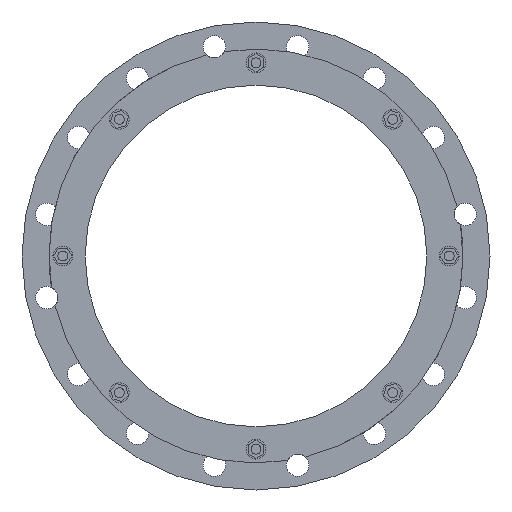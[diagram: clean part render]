
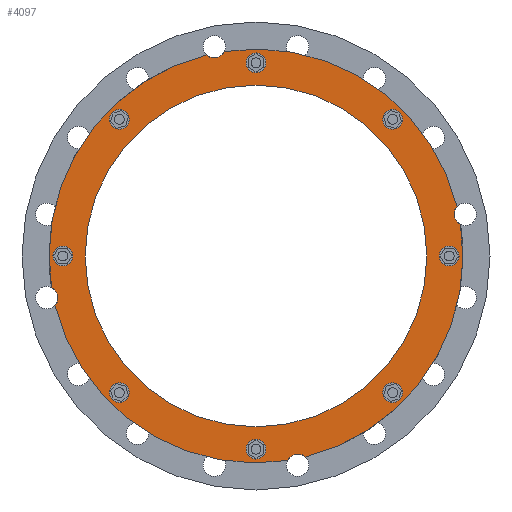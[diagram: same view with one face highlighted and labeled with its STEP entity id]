
A CAD part, front view. The second image highlights one B-rep face of the part: STEP entity #4097.
In plain terms, the highlighted planar face has unit normal (0, -1, 0).
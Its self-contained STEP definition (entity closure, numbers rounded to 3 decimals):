
#873=CARTESIAN_POINT('',(0.,-99.452,0.));
#874=DIRECTION('',(0.,-1.,0.));
#875=DIRECTION('',(0.971,0.,0.238));
#876=AXIS2_PLACEMENT_3D('',#873,#874,#875);
#896=CARTESIAN_POINT('',(0.,-99.452,0.));
#897=DIRECTION('',(0.,-1.,0.));
#898=DIRECTION('',(-0.238,0.,0.971));
#899=AXIS2_PLACEMENT_3D('',#896,#897,#898);
#905=CARTESIAN_POINT('',(0.,-99.452,0.));
#906=DIRECTION('',(0.,-1.,0.));
#907=DIRECTION('',(0.238,0.,-0.971));
#908=AXIS2_PLACEMENT_3D('',#905,#906,#907);
#937=CARTESIAN_POINT('',(0.,-99.452,0.));
#938=DIRECTION('',(0.,-1.,0.));
#939=DIRECTION('',(-0.971,0.,-0.238));
#940=AXIS2_PLACEMENT_3D('',#937,#938,#939);
#1442=CARTESIAN_POINT('',(233.25,-99.452,0.));
#1443=DIRECTION('',(0.,-1.,0.));
#1444=DIRECTION('',(0.,0.,-1.));
#1445=AXIS2_PLACEMENT_3D('',#1442,#1443,#1444);
#1447=CARTESIAN_POINT('',(233.25,-99.452,0.));
#1448=DIRECTION('',(0.,-1.,0.));
#1449=DIRECTION('',(0.,0.,1.));
#1450=AXIS2_PLACEMENT_3D('',#1447,#1448,#1449);
#1452=CARTESIAN_POINT('',(164.933,-99.452,164.933));
#1453=DIRECTION('',(0.,-1.,0.));
#1454=DIRECTION('',(0.707,0.,-0.707));
#1455=AXIS2_PLACEMENT_3D('',#1452,#1453,#1454);
#1457=CARTESIAN_POINT('',(164.933,-99.452,164.933));
#1458=DIRECTION('',(0.,-1.,0.));
#1459=DIRECTION('',(-0.707,0.,0.707));
#1460=AXIS2_PLACEMENT_3D('',#1457,#1458,#1459);
#1462=CARTESIAN_POINT('',(0.,-99.452,233.25));
#1463=DIRECTION('',(0.,-1.,0.));
#1464=DIRECTION('',(1.,0.,0.));
#1465=AXIS2_PLACEMENT_3D('',#1462,#1463,#1464);
#1467=CARTESIAN_POINT('',(0.,-99.452,233.25));
#1468=DIRECTION('',(0.,-1.,0.));
#1469=DIRECTION('',(-1.,0.,0.));
#1470=AXIS2_PLACEMENT_3D('',#1467,#1468,#1469);
#1472=CARTESIAN_POINT('',(-164.933,-99.452,164.933));
#1473=DIRECTION('',(0.,-1.,0.));
#1474=DIRECTION('',(0.707,0.,0.707));
#1475=AXIS2_PLACEMENT_3D('',#1472,#1473,#1474);
#1477=CARTESIAN_POINT('',(-164.933,-99.452,164.933));
#1478=DIRECTION('',(0.,-1.,0.));
#1479=DIRECTION('',(-0.707,0.,-0.707));
#1480=AXIS2_PLACEMENT_3D('',#1477,#1478,#1479);
#1482=CARTESIAN_POINT('',(-233.25,-99.452,0.));
#1483=DIRECTION('',(0.,-1.,0.));
#1484=DIRECTION('',(0.,0.,1.));
#1485=AXIS2_PLACEMENT_3D('',#1482,#1483,#1484);
#1487=CARTESIAN_POINT('',(-233.25,-99.452,0.));
#1488=DIRECTION('',(0.,-1.,0.));
#1489=DIRECTION('',(0.,0.,-1.));
#1490=AXIS2_PLACEMENT_3D('',#1487,#1488,#1489);
#1492=CARTESIAN_POINT('',(-164.933,-99.452,-164.933));
#1493=DIRECTION('',(0.,-1.,0.));
#1494=DIRECTION('',(-0.707,0.,0.707));
#1495=AXIS2_PLACEMENT_3D('',#1492,#1493,#1494);
#1497=CARTESIAN_POINT('',(-164.933,-99.452,-164.933));
#1498=DIRECTION('',(0.,-1.,0.));
#1499=DIRECTION('',(0.707,0.,-0.707));
#1500=AXIS2_PLACEMENT_3D('',#1497,#1498,#1499);
#1502=CARTESIAN_POINT('',(0.,-99.452,-233.25));
#1503=DIRECTION('',(0.,-1.,0.));
#1504=DIRECTION('',(-1.,0.,0.));
#1505=AXIS2_PLACEMENT_3D('',#1502,#1503,#1504);
#1507=CARTESIAN_POINT('',(0.,-99.452,-233.25));
#1508=DIRECTION('',(0.,-1.,0.));
#1509=DIRECTION('',(1.,0.,0.));
#1510=AXIS2_PLACEMENT_3D('',#1507,#1508,#1509);
#1512=CARTESIAN_POINT('',(164.933,-99.452,-164.933));
#1513=DIRECTION('',(0.,-1.,0.));
#1514=DIRECTION('',(-0.707,0.,-0.707));
#1515=AXIS2_PLACEMENT_3D('',#1512,#1513,#1514);
#1517=CARTESIAN_POINT('',(164.933,-99.452,-164.933));
#1518=DIRECTION('',(0.,-1.,0.));
#1519=DIRECTION('',(0.707,0.,0.707));
#1520=AXIS2_PLACEMENT_3D('',#1517,#1518,#1519);
#1522=CARTESIAN_POINT('',(50.236,-99.452,-252.552));
#1523=DIRECTION('',(0.,-1.,0.));
#1524=DIRECTION('',(0.682,0.,0.732));
#1525=AXIS2_PLACEMENT_3D('',#1522,#1523,#1524);
#1527=CARTESIAN_POINT('',(-252.552,-99.452,-50.236));
#1528=DIRECTION('',(0.,-1.,0.));
#1529=DIRECTION('',(0.732,0.,-0.682));
#1530=AXIS2_PLACEMENT_3D('',#1527,#1528,#1529);
#1532=CARTESIAN_POINT('',(-50.236,-99.452,252.552));
#1533=DIRECTION('',(0.,-1.,0.));
#1534=DIRECTION('',(-0.682,0.,-0.732));
#1535=AXIS2_PLACEMENT_3D('',#1532,#1533,#1534);
#1537=CARTESIAN_POINT('',(252.552,-99.452,50.236));
#1538=DIRECTION('',(0.,-1.,0.));
#1539=DIRECTION('',(-0.732,0.,0.682));
#1540=AXIS2_PLACEMENT_3D('',#1537,#1538,#1539);
#1542=CARTESIAN_POINT('',(0.,-99.452,0.));
#1543=DIRECTION('',(0.,1.,0.));
#1544=DIRECTION('',(1.,0.,0.));
#1545=AXIS2_PLACEMENT_3D('',#1542,#1543,#1544);
#1555=CARTESIAN_POINT('',(0.,-99.452,0.));
#1556=DIRECTION('',(0.,-1.,0.));
#1557=DIRECTION('',(1.,0.,0.));
#1558=AXIS2_PLACEMENT_3D('',#1555,#1556,#1557);
#2556=CARTESIAN_POINT('',(206.25,-99.452,0.));
#2558=VERTEX_POINT('',#2556);
#2564=CARTESIAN_POINT('',(-206.25,-99.452,0.));
#2566=VERTEX_POINT('',#2564);
#2605=CARTESIAN_POINT('',(233.25,-99.452,-12.));
#2606=CARTESIAN_POINT('',(233.25,-99.452,12.));
#2607=VERTEX_POINT('',#2605);
#2608=VERTEX_POINT('',#2606);
#2654=CARTESIAN_POINT('',(173.418,-99.452,156.447));
#2655=VERTEX_POINT('',#2654);
#2656=CARTESIAN_POINT('',(156.447,-99.452,173.418));
#2657=VERTEX_POINT('',#2656);
#2698=CARTESIAN_POINT('',(12.,-99.452,233.25));
#2699=VERTEX_POINT('',#2698);
#2700=CARTESIAN_POINT('',(-12.,-99.452,233.25));
#2701=VERTEX_POINT('',#2700);
#2742=CARTESIAN_POINT('',(-156.447,-99.452,173.418));
#2743=VERTEX_POINT('',#2742);
#2744=CARTESIAN_POINT('',(-173.418,-99.452,156.447));
#2745=VERTEX_POINT('',#2744);
#2786=CARTESIAN_POINT('',(-233.25,-99.452,12.));
#2787=VERTEX_POINT('',#2786);
#2788=CARTESIAN_POINT('',(-233.25,-99.452,-12.));
#2789=VERTEX_POINT('',#2788);
#2830=CARTESIAN_POINT('',(-173.418,-99.452,-156.447));
#2831=VERTEX_POINT('',#2830);
#2832=CARTESIAN_POINT('',(-156.447,-99.452,-173.418));
#2833=VERTEX_POINT('',#2832);
#2874=CARTESIAN_POINT('',(-12.,-99.452,-233.25));
#2875=VERTEX_POINT('',#2874);
#2876=CARTESIAN_POINT('',(12.,-99.452,-233.25));
#2877=VERTEX_POINT('',#2876);
#2918=CARTESIAN_POINT('',(156.447,-99.452,-173.418));
#2919=VERTEX_POINT('',#2918);
#2920=CARTESIAN_POINT('',(173.418,-99.452,-156.447));
#2921=VERTEX_POINT('',#2920);
#3120=CARTESIAN_POINT('',(242.677,-99.452,59.44));
#3121=CARTESIAN_POINT('',(246.951,-99.452,37.953));
#3122=VERTEX_POINT('',#3120);
#3123=VERTEX_POINT('',#3121);
#3126=CARTESIAN_POINT('',(-59.44,-99.452,242.677));
#3128=VERTEX_POINT('',#3126);
#3130=CARTESIAN_POINT('',(-37.953,-99.452,246.951));
#3132=VERTEX_POINT('',#3130);
#3136=CARTESIAN_POINT('',(-242.677,-99.452,-59.44));
#3137=VERTEX_POINT('',#3136);
#3138=CARTESIAN_POINT('',(-246.951,-99.452,-37.953));
#3139=VERTEX_POINT('',#3138);
#3142=CARTESIAN_POINT('',(59.44,-99.452,-242.677));
#3143=VERTEX_POINT('',#3142);
#3144=CARTESIAN_POINT('',(37.953,-99.452,-246.951));
#3145=VERTEX_POINT('',#3144);
#4027=CARTESIAN_POINT('',(0.,-99.452,0.));
#4028=DIRECTION('',(0.,1.,0.));
#4029=DIRECTION('',(-1.,0.,0.));
#4030=AXIS2_PLACEMENT_3D('',#4027,#4028,#4029);
#4031=PLANE('',#4030);
#4032=ORIENTED_EDGE('',*,*,#3656,.T.);
#4033=ORIENTED_EDGE('',*,*,#3721,.F.);
#4035=ORIENTED_EDGE('',*,*,#4034,.T.);
#4036=ORIENTED_EDGE('',*,*,#3691,.F.);
#4037=ORIENTED_EDGE('',*,*,#3735,.T.);
#4038=ORIENTED_EDGE('',*,*,#3674,.F.);
#4040=ORIENTED_EDGE('',*,*,#4039,.T.);
#4041=ORIENTED_EDGE('',*,*,#3702,.F.);
#4042=EDGE_LOOP('',(#4032,#4033,#4035,#4036,#4037,#4038,#4040,#4041));
#4043=FACE_OUTER_BOUND('',#4042,.F.);
#4044=ORIENTED_EDGE('',*,*,#4017,.T.);
#4046=ORIENTED_EDGE('',*,*,#4045,.T.);
#4047=EDGE_LOOP('',(#4044,#4046));
#4048=FACE_BOUND('',#4047,.F.);
#4050=ORIENTED_EDGE('',*,*,#4049,.T.);
#4052=ORIENTED_EDGE('',*,*,#4051,.T.);
#4053=EDGE_LOOP('',(#4050,#4052));
#4054=FACE_BOUND('',#4053,.F.);
#4056=ORIENTED_EDGE('',*,*,#4055,.T.);
#4058=ORIENTED_EDGE('',*,*,#4057,.T.);
#4059=EDGE_LOOP('',(#4056,#4058));
#4060=FACE_BOUND('',#4059,.F.);
#4062=ORIENTED_EDGE('',*,*,#4061,.T.);
#4064=ORIENTED_EDGE('',*,*,#4063,.T.);
#4065=EDGE_LOOP('',(#4062,#4064));
#4066=FACE_BOUND('',#4065,.F.);
#4068=ORIENTED_EDGE('',*,*,#4067,.T.);
#4070=ORIENTED_EDGE('',*,*,#4069,.T.);
#4071=EDGE_LOOP('',(#4068,#4070));
#4072=FACE_BOUND('',#4071,.F.);
#4074=ORIENTED_EDGE('',*,*,#4073,.T.);
#4076=ORIENTED_EDGE('',*,*,#4075,.T.);
#4077=EDGE_LOOP('',(#4074,#4076));
#4078=FACE_BOUND('',#4077,.F.);
#4080=ORIENTED_EDGE('',*,*,#4079,.T.);
#4082=ORIENTED_EDGE('',*,*,#4081,.T.);
#4083=EDGE_LOOP('',(#4080,#4082));
#4084=FACE_BOUND('',#4083,.F.);
#4086=ORIENTED_EDGE('',*,*,#4085,.T.);
#4088=ORIENTED_EDGE('',*,*,#4087,.T.);
#4089=EDGE_LOOP('',(#4086,#4088));
#4090=FACE_BOUND('',#4089,.F.);
#4092=ORIENTED_EDGE('',*,*,#4091,.F.);
#4094=ORIENTED_EDGE('',*,*,#4093,.T.);
#4095=EDGE_LOOP('',(#4092,#4094));
#4096=FACE_BOUND('',#4095,.F.);
#4097=ADVANCED_FACE('',(#4043,#4048,#4054,#4060,#4066,#4072,#4078,#4084,#4090,
#4096),#4031,.F.);
#877=CIRCLE('',#876,249.85);
#900=CIRCLE('',#899,249.85);
#909=CIRCLE('',#908,249.85);
#941=CIRCLE('',#940,249.85);
#1446=CIRCLE('',#1445,12.);
#1451=CIRCLE('',#1450,12.);
#1456=CIRCLE('',#1455,12.);
#1461=CIRCLE('',#1460,12.);
#1466=CIRCLE('',#1465,12.);
#1471=CIRCLE('',#1470,12.);
#1476=CIRCLE('',#1475,12.);
#1481=CIRCLE('',#1480,12.);
#1486=CIRCLE('',#1485,12.);
#1491=CIRCLE('',#1490,12.);
#1496=CIRCLE('',#1495,12.);
#1501=CIRCLE('',#1500,12.);
#1506=CIRCLE('',#1505,12.);
#1511=CIRCLE('',#1510,12.);
#1516=CIRCLE('',#1515,12.);
#1521=CIRCLE('',#1520,12.);
#1526=CIRCLE('',#1525,13.5);
#1531=CIRCLE('',#1530,13.5);
#1536=CIRCLE('',#1535,13.5);
#1541=CIRCLE('',#1540,13.5);
#1546=CIRCLE('',#1545,206.25);
#1559=CIRCLE('',#1558,206.25);
#3656=EDGE_CURVE('',#3143,#3145,#1526,.T.);
#3674=EDGE_CURVE('',#3122,#3132,#877,.T.);
#3691=EDGE_CURVE('',#3128,#3139,#900,.T.);
#3702=EDGE_CURVE('',#3143,#3123,#909,.T.);
#3721=EDGE_CURVE('',#3137,#3145,#941,.T.);
#3735=EDGE_CURVE('',#3128,#3132,#1536,.T.);
#4017=EDGE_CURVE('',#2607,#2608,#1446,.T.);
#4034=EDGE_CURVE('',#3137,#3139,#1531,.T.);
#4039=EDGE_CURVE('',#3122,#3123,#1541,.T.);
#4045=EDGE_CURVE('',#2608,#2607,#1451,.T.);
#4049=EDGE_CURVE('',#2655,#2657,#1456,.T.);
#4051=EDGE_CURVE('',#2657,#2655,#1461,.T.);
#4055=EDGE_CURVE('',#2699,#2701,#1466,.T.);
#4057=EDGE_CURVE('',#2701,#2699,#1471,.T.);
#4061=EDGE_CURVE('',#2743,#2745,#1476,.T.);
#4063=EDGE_CURVE('',#2745,#2743,#1481,.T.);
#4067=EDGE_CURVE('',#2787,#2789,#1486,.T.);
#4069=EDGE_CURVE('',#2789,#2787,#1491,.T.);
#4073=EDGE_CURVE('',#2831,#2833,#1496,.T.);
#4075=EDGE_CURVE('',#2833,#2831,#1501,.T.);
#4079=EDGE_CURVE('',#2875,#2877,#1506,.T.);
#4081=EDGE_CURVE('',#2877,#2875,#1511,.T.);
#4085=EDGE_CURVE('',#2919,#2921,#1516,.T.);
#4087=EDGE_CURVE('',#2921,#2919,#1521,.T.);
#4091=EDGE_CURVE('',#2558,#2566,#1546,.T.);
#4093=EDGE_CURVE('',#2558,#2566,#1559,.T.);
